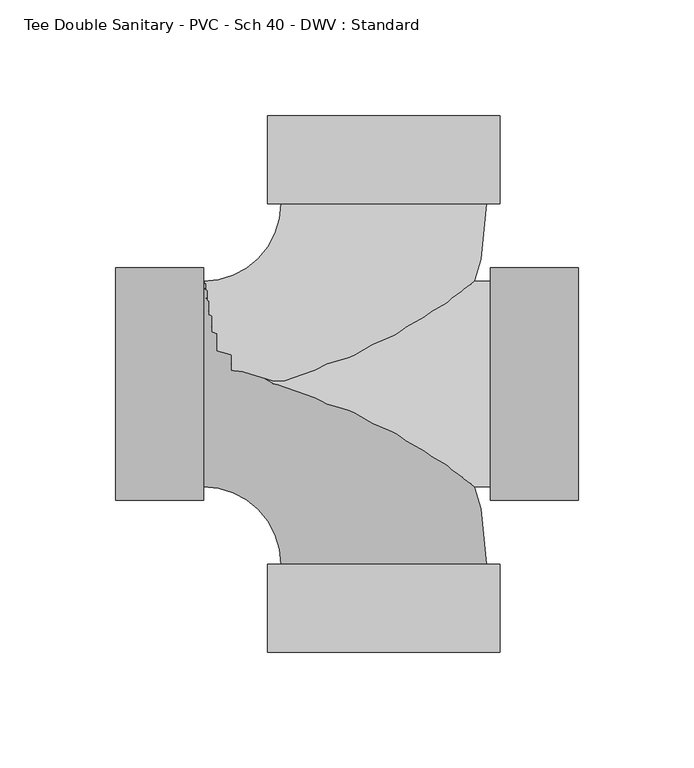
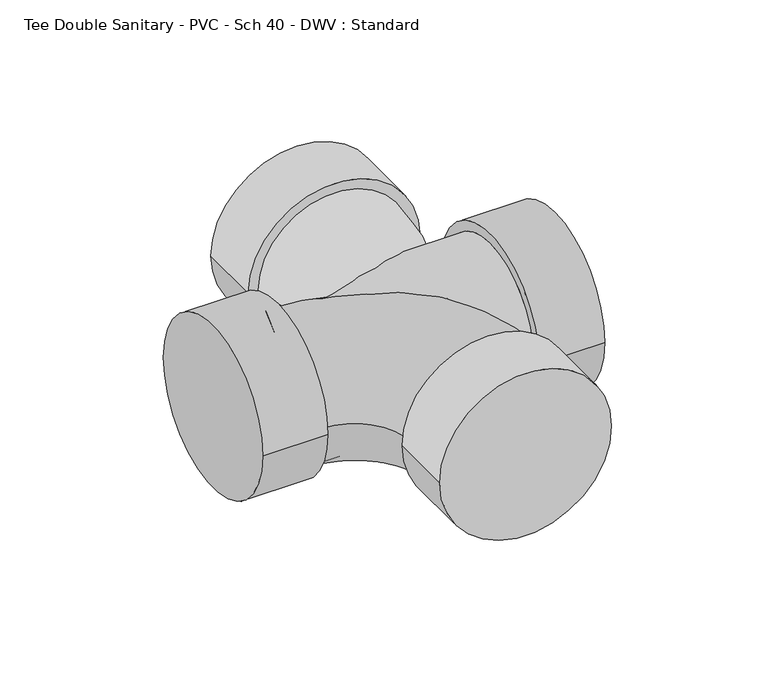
"""IFC4 building model written with IfcOpenShell, lengths in millimetres: pipe fitting geometry, Tee Double Sanitary - PVC - Sch 40 - DWV : Standard."""

from ifc_helpers import new_model, si_unit, point, frame, origin, place, context, project, spatial, circle_curve, ellipse_curve, trimmed, source, transform, mapped, element, save
from ifc_brep_helpers import plane_surface, cylinder_surface, revolved_surface, advanced_brep


def tee_double_sanitary_pvc_sch_40_dwv_standard_0560fe9e(model_context):
    return source(origin(), model_context, "Body", "AdvancedBrep", [
        advanced_brep(
        [(-77.8002, -44.45, 0.0), (-77.8002, 44.45, 0.0), (-44.45, -77.8002, 0.0), (44.45, -77.8002, 0.0), (50.2666, -115.9002, 0.0), (-50.2666, -115.9002, 0.0), (50.2666, -77.8002, 0.0), (-50.2666, -77.8002, 0.0)],
        [
            (0, 1, circle_curve(frame((-77.8002, 0.0, 0.0), z_axis=(-1.0, 0.0, 0.0), x_axis=(0.0, 1.0, 0.0)), 44.45)),
            (1, 0, circle_curve(frame((-77.8002, 0.0, 0.0), z_axis=(-1.0, 0.0, 0.0), x_axis=(0.0, 1.0, 0.0)), 44.45)),
            (0, 2, circle_curve(frame((-77.8002, -77.8002, 0.0), z_axis=(0.0, 0.0, -1.0), x_axis=(0.0, 1.0, 0.0)), 33.3502)),
            (2, 3, circle_curve(frame((0.0, -77.8002, 0.0), z_axis=(0.0, 1.0, 0.0), x_axis=(1.0, 0.0, 0.0)), 44.45)),
            (3, 1, circle_curve(frame((-77.8002, -77.8002, 0.0), z_axis=(0.0, 0.0, 1.0), x_axis=(0.0, 1.0, 0.0)), 122.2502)),
            (3, 2, circle_curve(frame((0.0, -77.8002, 0.0), z_axis=(0.0, 1.0, 0.0), x_axis=(1.0, 0.0, 0.0)), 44.45)),
            (4, 5, circle_curve(frame((0.0, -115.9002, 0.0), z_axis=(0.0, -1.0, 0.0), x_axis=(-1.0, 0.0, 0.0)), 50.2666)),
            (5, 4, circle_curve(frame((0.0, -115.9002, 0.0), z_axis=(0.0, -1.0, 0.0), x_axis=(-1.0, 0.0, 0.0)), 50.2666)),
            (6, 7, circle_curve(frame((0.0, -77.8002, 0.0), z_axis=(0.0, 1.0, 0.0), x_axis=(-1.0, 0.0, 0.0)), 50.2666)),
            (7, 6, circle_curve(frame((0.0, -77.8002, 0.0), z_axis=(0.0, 1.0, 0.0), x_axis=(-1.0, 0.0, 0.0)), 50.2666)),
            (4, 6),
            (7, 5),
        ],
        [
            plane_surface(frame((-77.8002, 0.0, 0.0), z_axis=(-1.0, 0.0, 0.0), x_axis=(0.0, 0.0, 1.0))),
            revolved_surface(trimmed(ellipse_curve(frame((-77.8002, 0.0, 0.0), z_axis=(-1.0, 0.0, 0.0), x_axis=(0.0, 1.0, 0.0)), 44.45, 44.45), [point((-77.8002, -44.45, 0.0))], [point((-77.8002, 44.45, 0.0))], True, "CARTESIAN"), (-77.8002, -77.8002, 0.0), (0.0, 0.0, -1.0)),
            revolved_surface(trimmed(ellipse_curve(frame((-77.8002, 0.0, 0.0), z_axis=(-1.0, 0.0, 0.0), x_axis=(0.0, 1.0, 0.0)), 44.45, 44.45), [point((-77.8002, 44.45, 0.0))], [point((-77.8002, -44.45, 0.0))], True, "CARTESIAN"), (-77.8002, -77.8002, 0.0), (0.0, 0.0, -1.0)),
            plane_surface(frame((0.0, -115.9002, 0.0), z_axis=(0.0, -1.0, 0.0), x_axis=(0.0, 0.0, 1.0))),
            plane_surface(frame((0.0, -77.8002, 0.0), z_axis=(0.0, 1.0, 0.0), x_axis=(0.0, 0.0, 1.0))),
            cylinder_surface(frame((0.0, -115.9002, 0.0), z_axis=(0.0, -1.0, 0.0), x_axis=(-1.0, 0.0, 0.0)), 50.2666),
        ],
        [
            (0, [[1, 2]]),
            (1, [[-1, 3, 4, 5]]),
            (2, [[-2, -5, 6, -3]]),
            (3, [[7, 8]]),
            (4, [[9, 10], [-4, -6]]),
            (5, [[-7, 11, -10, 12]]),
            (5, [[-8, -12, -9, -11]]),
        ],
    ),
        advanced_brep(
        [(-77.8002, -44.45, 0.0), (-77.8002, 44.45, 0.0), (44.45, 77.8002, 0.0), (-44.45, 77.8002, 0.0), (50.2666, 77.8002, 0.0), (-50.2666, 77.8002, 0.0), (50.2666, 115.9002, 0.0), (-50.2666, 115.9002, 0.0)],
        [
            (0, 1, circle_curve(frame((-77.8002, 0.0, 0.0), z_axis=(-1.0, 0.0, 0.0), x_axis=(0.0, 1.0, 0.0)), 44.45)),
            (1, 0, circle_curve(frame((-77.8002, 0.0, 0.0), z_axis=(-1.0, 0.0, 0.0), x_axis=(0.0, 1.0, 0.0)), 44.45)),
            (0, 2, circle_curve(frame((-77.8002, 77.8002, 0.0), z_axis=(0.0, 0.0, 1.0), x_axis=(0.0, -1.0, 0.0)), 122.2502)),
            (2, 3, circle_curve(frame((0.0, 77.8002, 0.0), z_axis=(0.0, -1.0, 0.0), x_axis=(-1.0, 0.0, 0.0)), 44.45)),
            (3, 1, circle_curve(frame((-77.8002, 77.8002, 0.0), z_axis=(0.0, 0.0, -1.0), x_axis=(0.0, -1.0, 0.0)), 33.3502)),
            (3, 2, circle_curve(frame((0.0, 77.8002, 0.0), z_axis=(0.0, -1.0, 0.0), x_axis=(-1.0, 0.0, 0.0)), 44.45)),
            (4, 5, circle_curve(frame((0.0, 77.8002, 0.0), z_axis=(0.0, -1.0, 0.0), x_axis=(-1.0, 0.0, 0.0)), 50.2666)),
            (5, 4, circle_curve(frame((0.0, 77.8002, 0.0), z_axis=(0.0, -1.0, 0.0), x_axis=(-1.0, 0.0, 0.0)), 50.2666)),
            (6, 7, circle_curve(frame((0.0, 115.9002, 0.0), z_axis=(0.0, 1.0, 0.0), x_axis=(-1.0, 0.0, 0.0)), 50.2666)),
            (7, 6, circle_curve(frame((0.0, 115.9002, 0.0), z_axis=(0.0, 1.0, 0.0), x_axis=(-1.0, 0.0, 0.0)), 50.2666)),
            (4, 6),
            (7, 5),
        ],
        [
            plane_surface(frame((-77.8002, 0.0, 0.0), z_axis=(-1.0, 0.0, 0.0), x_axis=(0.0, 0.0, 1.0))),
            revolved_surface(trimmed(ellipse_curve(frame((-77.8002, 0.0, 0.0), z_axis=(-1.0, 0.0, 0.0), x_axis=(0.0, 1.0, 0.0)), 44.45, 44.45), [point((-77.8002, -44.45, 0.0))], [point((-77.8002, 44.45, 0.0))], True, "CARTESIAN"), (-77.8002, 77.8002, 0.0), (0.0, 0.0, 1.0)),
            revolved_surface(trimmed(ellipse_curve(frame((-77.8002, 0.0, 0.0), z_axis=(-1.0, 0.0, 0.0), x_axis=(0.0, 1.0, 0.0)), 44.45, 44.45), [point((-77.8002, 44.45, 0.0))], [point((-77.8002, -44.45, 0.0))], True, "CARTESIAN"), (-77.8002, 77.8002, 0.0), (0.0, 0.0, 1.0)),
            plane_surface(frame((0.0, 77.8002, 0.0), z_axis=(0.0, -1.0, 0.0), x_axis=(0.0, 0.0, 1.0))),
            plane_surface(frame((0.0, 115.9002, 0.0), z_axis=(0.0, 1.0, 0.0), x_axis=(0.0, 0.0, 1.0))),
            cylinder_surface(frame((0.0, 77.8002, 0.0), z_axis=(0.0, -1.0, 0.0), x_axis=(-1.0, 0.0, 0.0)), 50.2666),
        ],
        [
            (0, [[1, 2]]),
            (1, [[-1, 3, 4, 5]]),
            (2, [[-2, -5, 6, -3]]),
            (3, [[7, 8], [-4, -6]]),
            (4, [[9, 10]]),
            (5, [[-7, 11, -10, 12]]),
            (5, [[-8, -12, -9, -11]]),
        ],
    ),
        advanced_brep(
        [(-115.9002, -50.2666, 0.0), (-115.9002, 50.2666, 0.0), (-77.8002, -50.2666, 0.0), (-77.8002, 50.2666, 0.0), (-77.8002, 44.45, 0.0), (-77.8002, -44.45, 0.0), (46.0248, 44.45, 0.0), (46.0248, -44.45, 0.0), (46.0248, -50.2666, 0.0), (46.0248, 50.2666, 0.0), (84.1248, -50.2666, 0.0), (84.1248, 50.2666, 0.0)],
        [
            (0, 1, circle_curve(frame((-115.9002, 0.0, 0.0), z_axis=(-1.0, 0.0, 0.0), x_axis=(0.0, 1.0, 0.0)), 50.2666)),
            (1, 0, circle_curve(frame((-115.9002, 0.0, 0.0), z_axis=(-1.0, 0.0, 0.0), x_axis=(0.0, 1.0, 0.0)), 50.2666)),
            (2, 3, circle_curve(frame((-77.8002, 0.0, 0.0), z_axis=(1.0, 0.0, 0.0), x_axis=(0.0, 1.0, 0.0)), 50.2666)),
            (3, 2, circle_curve(frame((-77.8002, 0.0, 0.0), z_axis=(1.0, 0.0, 0.0), x_axis=(0.0, 1.0, 0.0)), 50.2666)),
            (4, 5, circle_curve(frame((-77.8002, 0.0, 0.0), z_axis=(-1.0, 0.0, 0.0), x_axis=(0.0, 0.0, -1.0)), 44.45)),
            (5, 4, circle_curve(frame((-77.8002, 0.0, 0.0), z_axis=(-1.0, 0.0, 0.0), x_axis=(0.0, 0.0, 1.0)), 44.45)),
            (0, 2),
            (3, 1),
            (4, 6),
            (6, 7, circle_curve(frame((46.0248, 0.0, 0.0), z_axis=(-1.0, 0.0, 0.0), x_axis=(0.0, 0.0, -1.0)), 44.45)),
            (7, 5),
            (7, 6, circle_curve(frame((46.0248, 0.0, 0.0), z_axis=(-1.0, 0.0, 0.0), x_axis=(0.0, 0.0, 1.0)), 44.45)),
            (8, 9, circle_curve(frame((46.0248, 0.0, 0.0), z_axis=(-1.0, 0.0, 0.0), x_axis=(0.0, 1.0, 0.0)), 50.2666)),
            (9, 8, circle_curve(frame((46.0248, 0.0, 0.0), z_axis=(-1.0, 0.0, 0.0), x_axis=(0.0, 1.0, 0.0)), 50.2666)),
            (10, 11, circle_curve(frame((84.1248, 0.0, 0.0), z_axis=(1.0, 0.0, 0.0), x_axis=(0.0, 1.0, 0.0)), 50.2666)),
            (11, 10, circle_curve(frame((84.1248, 0.0, 0.0), z_axis=(1.0, 0.0, 0.0), x_axis=(0.0, 1.0, 0.0)), 50.2666)),
            (8, 10),
            (11, 9),
        ],
        [
            plane_surface(frame((-115.9002, 0.0, 0.0), z_axis=(-1.0, 0.0, 0.0), x_axis=(0.0, 0.0, 1.0))),
            plane_surface(frame((-77.8002, 0.0, 0.0), z_axis=(1.0, 0.0, 0.0), x_axis=(0.0, 0.0, 1.0))),
            cylinder_surface(frame((-115.9002, 0.0, 0.0), z_axis=(-1.0, 0.0, 0.0), x_axis=(0.0, 1.0, 0.0)), 50.2666),
            cylinder_surface(frame((-77.8002, 0.0, 0.0), z_axis=(1.0, 0.0, 0.0), x_axis=(0.0, 0.0, -1.0)), 44.45),
            cylinder_surface(frame((-77.8002, 0.0, 0.0), z_axis=(1.0, 0.0, 0.0), x_axis=(0.0, 0.0, 1.0)), 44.45),
            plane_surface(frame((46.0248, 0.0, 0.0), z_axis=(-1.0, 0.0, 0.0), x_axis=(0.0, 0.0, 1.0))),
            plane_surface(frame((84.1248, 0.0, 0.0), z_axis=(1.0, 0.0, 0.0), x_axis=(0.0, 0.0, 1.0))),
            cylinder_surface(frame((46.0248, 0.0, 0.0), z_axis=(-1.0, 0.0, 0.0), x_axis=(0.0, 1.0, 0.0)), 50.2666),
        ],
        [
            (0, [[1, 2]]),
            (1, [[3, 4], [5, 6]]),
            (2, [[-1, 7, -4, 8]]),
            (2, [[-2, -8, -3, -7]]),
            (3, [[9, 10, 11, -5]]),
            (4, [[-9, -6, -11, 12]]),
            (5, [[13, 14], [-10, -12]]),
            (6, [[15, 16]]),
            (7, [[-13, 17, -16, 18]]),
            (7, [[-14, -18, -15, -17]]),
        ],
    ),
    ])


if __name__ == "__main__":
    model = new_model("IFC4")
    model_context = context("Model", 3, world=origin())
    ifc_project = project(units=[si_unit("LENGTHUNIT", "METRE", prefix="MILLI")], contexts=[model_context])
    site = spatial("IfcSite", under=ifc_project)
    building = spatial("IfcBuilding", under=site)
    placement = place(None, origin())
    tee_double_sanitary_pvc_sch_40_dwv_standard_shape = tee_double_sanitary_pvc_sch_40_dwv_standard_0560fe9e(model_context)
    element("IfcPipeFitting", 1, ObjectType="Tee Double Sanitary - PVC - Sch 40 - DWV : Standard", at=placement, inside=building, context=model_context, shape_type="MappedRepresentation", body=[
        mapped(tee_double_sanitary_pvc_sch_40_dwv_standard_shape, transform((0.0, 0.0, 0.0), x_axis=(1.0, 0.0, 0.0), y_axis=(0.0, 1.0, 0.0), z_axis=(0.0, 0.0, 1.0))),
    ])
    save(model, "model.ifc")
